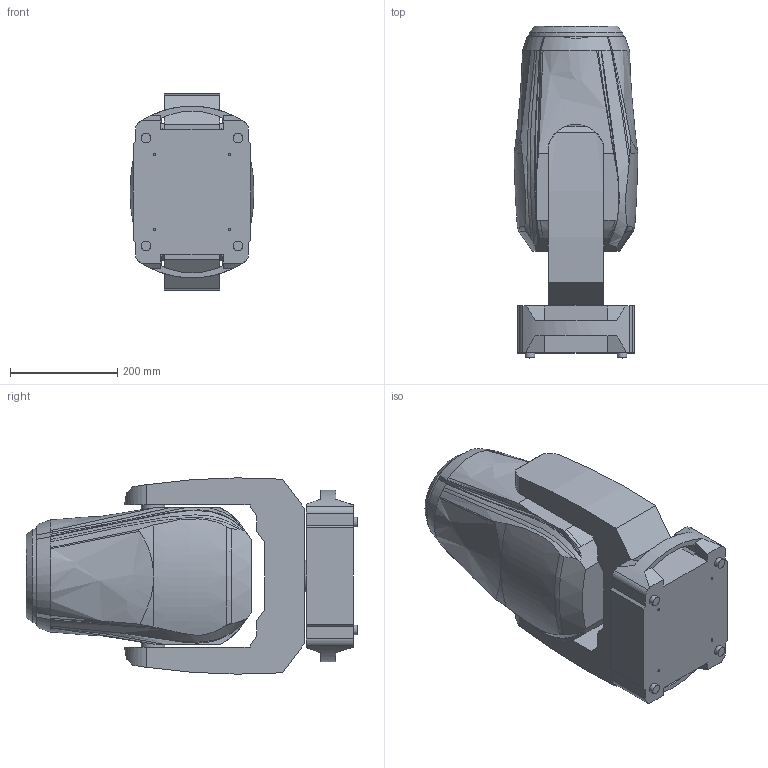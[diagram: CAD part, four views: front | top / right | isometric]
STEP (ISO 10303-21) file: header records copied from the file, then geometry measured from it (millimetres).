
FILE_DESCRIPTION(/* description */ ('Unknown'),/* implementation_level */ '2;1');
FILE_NAME(/* name */ '3D_Robin PAINTE',/* time_stamp */ '2022-03-01T15:09:53+01:00',/* author */ ('Ing.Rostislav HĂˇba'),/* organization */ ('ROBE lighting'),/* preprocessor_version */ 'ST-DEVELOPER v16.7',/* originating_system */ 'Solid Edge',/* authorisation */ 'Unknown');
FILE_SCHEMA (('CONFIG_CONTROL_DESIGN'));
Length unit declared in the file: millimetre
Products named in the file (4): Robin PAINTE 3D; Zakladna; Painte-Arm; Painte-Head
Assembly tree (3 placements, depth 2):
  Robin PAINTE 3D
    Zakladna
    Painte-Arm
    Painte-Head
Bounding box: 230.68 x 619.05 x 366.19 mm (x, y, z)
Volume: 28394687.4 mm3; surface area: 913830.9 mm2
Topology: 3 solids, 3 shells, 196 faces, 540 edges, 357 vertices
Faces by surface type: plane 107, bspline 46, cylinder 27, cone 8, torus 8
Full cylindrical faces by diameter (mm): 5 x4, 18 x4, 25 x2, 44 x1, 59.6 x1, 60 x1
Entity records: 7784 total; most frequent: CARTESIAN_POINT 3060, ORIENTED_EDGE 1042, DIRECTION 814, EDGE_CURVE 521, VERTEX_POINT 353, AXIS2_PLACEMENT_3D 283, LINE 248, VECTOR 248
